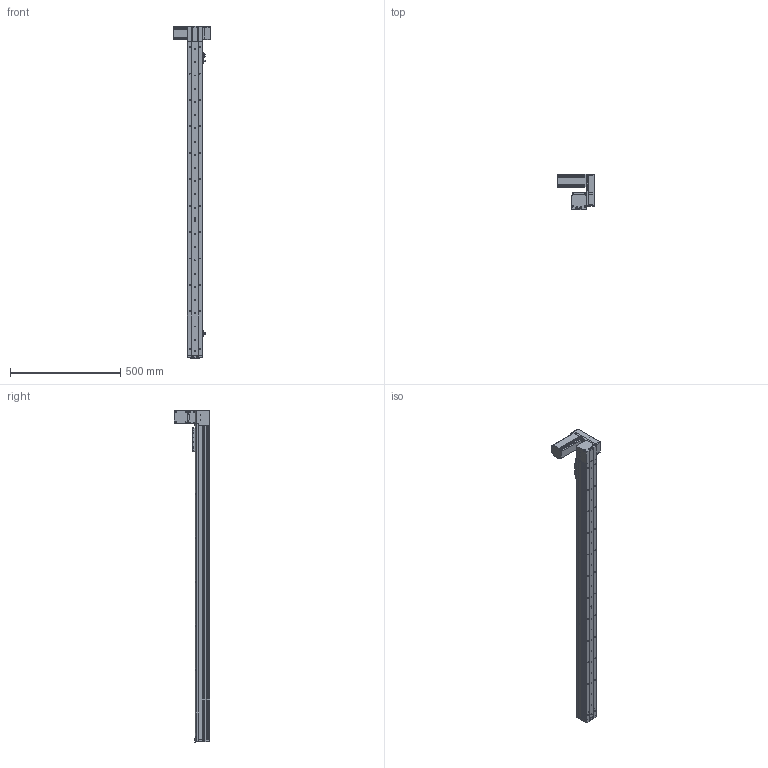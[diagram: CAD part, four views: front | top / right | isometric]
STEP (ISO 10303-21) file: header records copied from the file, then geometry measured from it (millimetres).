
FILE_DESCRIPTION (( 'STEP AP214' ), '1' );
FILE_NAME ('KSD68BS-S1250-MLU-CR.STEP', '2019-11-07T07:59:55', ( '微软用户' ), ( '微软中国' ), 'SwSTEP 2.0', 'SolidWorks 2014', '' );
FILE_SCHEMA (( 'AUTOMOTIVE_DESIGN' ));
Length unit declared in the file: millimetre
Products named in the file (14): KSD68BS 1250行程侧板全封闭; 68宽单导轨全封闭同步带端板; 68单导轨全封闭同步带电机座左; 68单导轨全封闭同步带安装板; 悵誘欶奻狟殏; 68宽马达安装板连板上折同步带; 感应片68宽全封闭; U倰嫖萇EEㄜSX672; 台达ECMA－C20604AS伺服电机（400W); KSD68BS 1250行程底板全封闭; KSD68BS-S1250-MLU-CR; KSD68BS 1250行程盖板全封闭; 68遵裔啣揤啣1; 68宽单导轨全封闭丝杆传动安装板1防护罩
Assembly tree (17 placements, depth 2):
  KSD68BS-S1250-MLU-CR
    KSD68BS 1250行程底板全封闭
    台达ECMA－C20604AS伺服电机（400W)
    U倰嫖萇EEㄜSX672  x3
    感应片68宽全封闭
    68宽马达安装板连板上折同步带
    悵誘欶奻狟殏
    68单导轨全封闭同步带安装板
    68单导轨全封闭同步带电机座左
    68宽单导轨全封闭同步带端板
    KSD68BS 1250行程侧板全封闭  x2
    68宽单导轨全封闭丝杆传动安装板1防护罩
    68遵裔啣揤啣1  x2
    KSD68BS 1250行程盖板全封闭
Bounding box: 167.2 x 159.5 x 1508.1 mm (x, y, z)
Volume: 2873101.4 mm3; surface area: 1130963.1 mm2
Topology: 18 solids, 18 shells, 1549 faces, 4431 edges, 2832 vertices
Faces by surface type: cylinder 748, plane 629, cone 172
Entity records: 49763 total; most frequent: CARTESIAN_POINT 8631, DIRECTION 7422, ORIENTED_EDGE 7106, EDGE_CURVE 3553, AXIS2_PLACEMENT_3D 2691, VERTEX_POINT 2330, LINE 2040, VECTOR 2040
